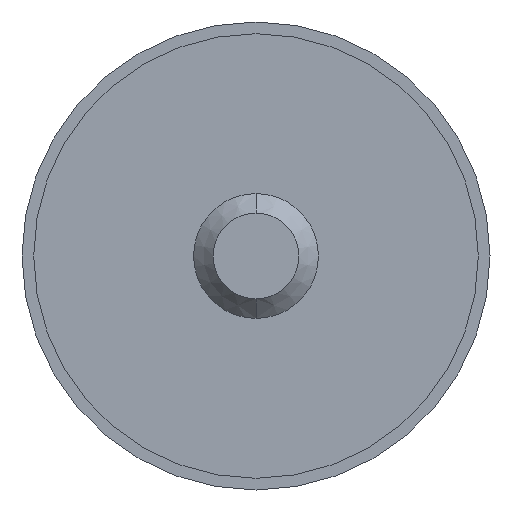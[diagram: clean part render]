
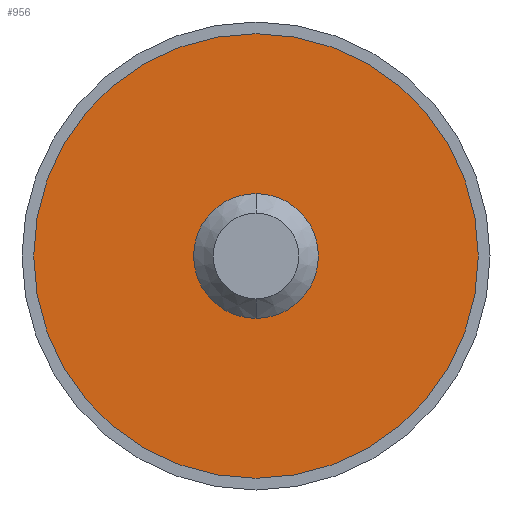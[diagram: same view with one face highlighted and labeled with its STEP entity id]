
A CAD part, front view. The second image highlights one B-rep face of the part: STEP entity #956.
In plain terms, the highlighted planar face has unit normal (0, -1, 0).
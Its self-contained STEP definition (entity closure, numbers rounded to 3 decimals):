
#135 = CARTESIAN_POINT ( 'NONE',  ( 0., -1., -4. ) ) ;
#137 = EDGE_LOOP ( 'NONE', ( #900, #3450 ) ) ;
#301 = FACE_OUTER_BOUND ( 'NONE', #137, .T. ) ;
#510 = AXIS2_PLACEMENT_3D ( 'NONE', #1995, #2916, #2026 ) ;
#608 = CIRCLE ( 'NONE', #2706, 14.25 ) ;
#776 = CARTESIAN_POINT ( 'NONE',  ( 0., -1., 0. ) ) ;
#831 = VERTEX_POINT ( 'NONE', #2018 ) ;
#848 = ORIENTED_EDGE ( 'NONE', *, *, #2814, .F. ) ;
#900 = ORIENTED_EDGE ( 'NONE', *, *, #3582, .F. ) ;
#956 = ADVANCED_FACE ( 'NONE', ( #3384, #301 ), #1756, .F. ) ;
#1138 = ORIENTED_EDGE ( 'NONE', *, *, #3867, .F. ) ;
#1164 = CARTESIAN_POINT ( 'NONE',  ( 0., -1., 14.25 ) ) ;
#1332 = CARTESIAN_POINT ( 'NONE',  ( 0., -1., 4. ) ) ;
#1693 = AXIS2_PLACEMENT_3D ( 'NONE', #2062, #2969, #3841 ) ;
#1703 = DIRECTION ( 'NONE',  ( 0., 1., 0. ) ) ;
#1756 = PLANE ( 'NONE',  #1693 ) ;
#1836 = CIRCLE ( 'NONE', #1849, 4. ) ;
#1849 = AXIS2_PLACEMENT_3D ( 'NONE', #2898, #2615, #2022 ) ;
#1942 = VERTEX_POINT ( 'NONE', #1164 ) ;
#1995 = CARTESIAN_POINT ( 'NONE',  ( 0., -1., 0. ) ) ;
#2010 = DIRECTION ( 'NONE',  ( 0., 0., 1. ) ) ;
#2018 = CARTESIAN_POINT ( 'NONE',  ( 0., -1., -14.25 ) ) ;
#2022 = DIRECTION ( 'NONE',  ( 0., 0., -1. ) ) ;
#2026 = DIRECTION ( 'NONE',  ( 0., 0., 1. ) ) ;
#2062 = CARTESIAN_POINT ( 'NONE',  ( 0., -1., 0. ) ) ;
#2110 = AXIS2_PLACEMENT_3D ( 'NONE', #2673, #2338, #3576 ) ;
#2338 = DIRECTION ( 'NONE',  ( 0., -1., 0. ) ) ;
#2362 = CIRCLE ( 'NONE', #510, 14.25 ) ;
#2615 = DIRECTION ( 'NONE',  ( 0., -1., 0. ) ) ;
#2673 = CARTESIAN_POINT ( 'NONE',  ( 0., -1., 0. ) ) ;
#2706 = AXIS2_PLACEMENT_3D ( 'NONE', #776, #1703, #2010 ) ;
#2814 = EDGE_CURVE ( 'NONE', #2994, #3486, #3511, .T. ) ;
#2898 = CARTESIAN_POINT ( 'NONE',  ( 0., -1., 0. ) ) ;
#2916 = DIRECTION ( 'NONE',  ( 0., 1., 0. ) ) ;
#2969 = DIRECTION ( 'NONE',  ( 0., 1., 0. ) ) ;
#2994 = VERTEX_POINT ( 'NONE', #135 ) ;
#3089 = EDGE_CURVE ( 'NONE', #831, #1942, #608, .T. ) ;
#3356 = EDGE_LOOP ( 'NONE', ( #1138, #848 ) ) ;
#3384 = FACE_BOUND ( 'NONE', #3356, .T. ) ;
#3450 = ORIENTED_EDGE ( 'NONE', *, *, #3089, .F. ) ;
#3486 = VERTEX_POINT ( 'NONE', #1332 ) ;
#3511 = CIRCLE ( 'NONE', #2110, 4. ) ;
#3576 = DIRECTION ( 'NONE',  ( 0., 0., -1. ) ) ;
#3582 = EDGE_CURVE ( 'NONE', #1942, #831, #2362, .T. ) ;
#3841 = DIRECTION ( 'NONE',  ( 0., 0., 1. ) ) ;
#3867 = EDGE_CURVE ( 'NONE', #3486, #2994, #1836, .T. ) ;
